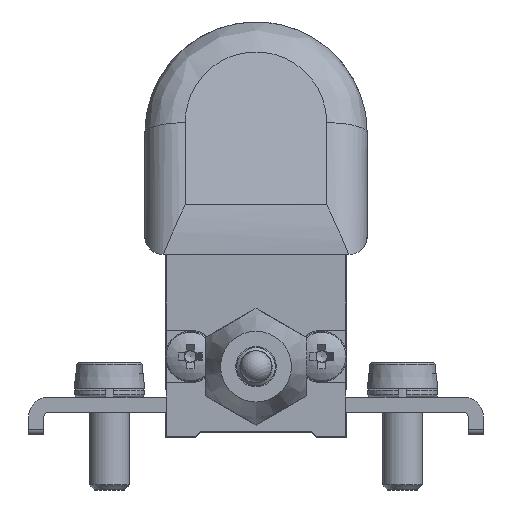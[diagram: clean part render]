
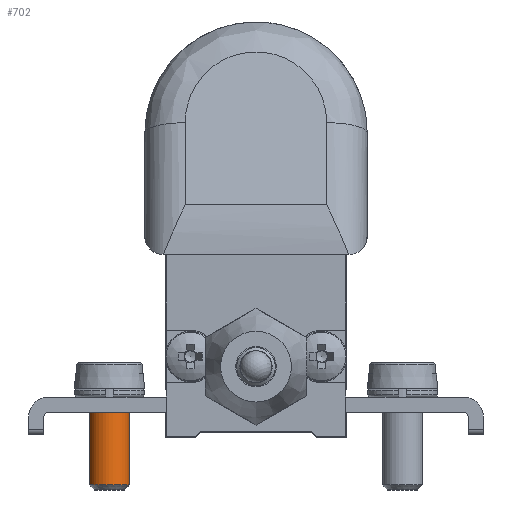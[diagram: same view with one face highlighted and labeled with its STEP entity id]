
A CAD part, front view. The second image highlights one B-rep face of the part: STEP entity #702.
In plain terms, the highlighted cylindrical face has radius 2 mm (diameter 4 mm), a full revolution.
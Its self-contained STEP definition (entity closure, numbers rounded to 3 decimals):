
#702 = ADVANCED_FACE( '', ( #1789, #1790 ), #1791, .T. );
#1789 = FACE_OUTER_BOUND( '', #3460, .T. );
#1790 = FACE_OUTER_BOUND( '', #3461, .T. );
#1791 = CYLINDRICAL_SURFACE( '', #3462, 2. );
#3460 = EDGE_LOOP( '', ( #7605 ) );
#3461 = EDGE_LOOP( '', ( #7606 ) );
#3462 = AXIS2_PLACEMENT_3D( '', #7607, #7608, #7609 );
#7605 = ORIENTED_EDGE( '', *, *, #11204, .T. );
#7606 = ORIENTED_EDGE( '', *, *, #11205, .T. );
#7607 = CARTESIAN_POINT( '', ( -14.5, 11., 32.8 ) );
#7608 = DIRECTION( '', ( 0., 0., -1. ) );
#7609 = DIRECTION( '', ( 1., 0., 0. ) );
#11204 = EDGE_CURVE( '', #13544, #13544, #13545, .F. );
#11205 = EDGE_CURVE( '', #13546, #13546, #13547, .T. );
#13544 = VERTEX_POINT( '', #17726 );
#13545 = CIRCLE( '', #17727, 2. );
#13546 = VERTEX_POINT( '', #17728 );
#13547 = CIRCLE( '', #17729, 2. );
#17726 = CARTESIAN_POINT( '', ( -16.5, 11., -4.7 ) );
#17727 = AXIS2_PLACEMENT_3D( '', #25278, #25279, #25280 );
#17728 = CARTESIAN_POINT( '', ( -12.5, 11., 3.8 ) );
#17729 = AXIS2_PLACEMENT_3D( '', #25281, #25282, #25283 );
#25278 = CARTESIAN_POINT( '', ( -14.5, 11., -4.7 ) );
#25279 = DIRECTION( '', ( 0., 0., -1. ) );
#25280 = DIRECTION( '', ( -1., 0., 0. ) );
#25281 = CARTESIAN_POINT( '', ( -14.5, 11., 3.8 ) );
#25282 = DIRECTION( '', ( 0., 0., -1. ) );
#25283 = DIRECTION( '', ( 1., 0., 0. ) );
